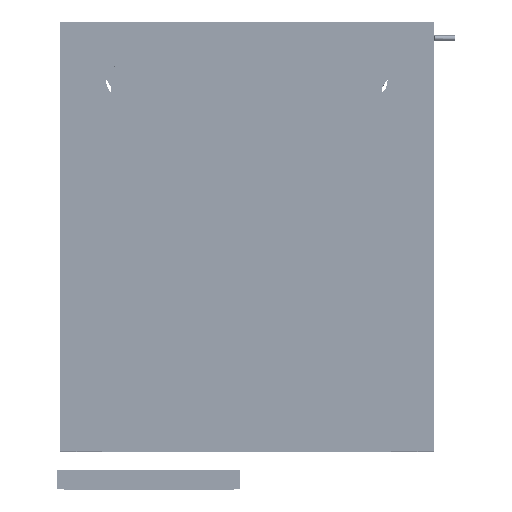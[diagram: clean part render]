
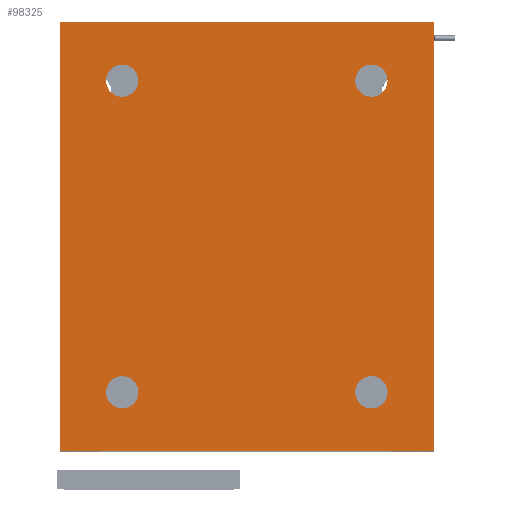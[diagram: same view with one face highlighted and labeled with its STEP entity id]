
A CAD part, top view. The second image highlights one B-rep face of the part: STEP entity #98325.
In plain terms, the highlighted planar face has unit normal (0, 0, 1).
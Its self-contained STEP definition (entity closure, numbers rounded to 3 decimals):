
#98136 = VERTEX_POINT('',#98137);
#98137 = CARTESIAN_POINT('',(0.,0.,625.));
#98144 = PLANE('',#98145);
#98145 = AXIS2_PLACEMENT_3D('',#98146,#98147,#98148);
#98146 = CARTESIAN_POINT('',(0.,0.,623.));
#98147 = DIRECTION('',(1.,0.,-0.));
#98148 = DIRECTION('',(0.,0.,1.));
#98156 = PLANE('',#98157);
#98157 = AXIS2_PLACEMENT_3D('',#98158,#98159,#98160);
#98158 = CARTESIAN_POINT('',(0.,0.,623.));
#98159 = DIRECTION('',(-0.,1.,0.));
#98160 = DIRECTION('',(0.,0.,1.));
#98197 = VERTEX_POINT('',#98198);
#98198 = CARTESIAN_POINT('',(0.,585.,625.));
#98212 = PLANE('',#98213);
#98213 = AXIS2_PLACEMENT_3D('',#98214,#98215,#98216);
#98214 = CARTESIAN_POINT('',(0.,585.,623.));
#98215 = DIRECTION('',(-0.,1.,0.));
#98216 = DIRECTION('',(0.,0.,1.));
#98224 = EDGE_CURVE('',#98136,#98197,#98225,.T.);
#98225 = SURFACE_CURVE('',#98226,(#98230,#98237),.PCURVE_S1.);
#98226 = LINE('',#98227,#98228);
#98227 = CARTESIAN_POINT('',(0.,0.,625.));
#98228 = VECTOR('',#98229,1.);
#98229 = DIRECTION('',(-0.,1.,0.));
#98230 = PCURVE('',#98144,#98231);
#98231 = DEFINITIONAL_REPRESENTATION('',(#98232),#98236);
#98232 = LINE('',#98233,#98234);
#98233 = CARTESIAN_POINT('',(2.,0.));
#98234 = VECTOR('',#98235,1.);
#98235 = DIRECTION('',(0.,-1.));
#98236 = ( GEOMETRIC_REPRESENTATION_CONTEXT(2) 
PARAMETRIC_REPRESENTATION_CONTEXT() REPRESENTATION_CONTEXT('2D SPACE',''
  ) );
#98237 = PCURVE('',#98238,#98243);
#98238 = PLANE('',#98239);
#98239 = AXIS2_PLACEMENT_3D('',#98240,#98241,#98242);
#98240 = CARTESIAN_POINT('',(0.,0.,625.));
#98241 = DIRECTION('',(0.,0.,1.));
#98242 = DIRECTION('',(1.,0.,-0.));
#98243 = DEFINITIONAL_REPRESENTATION('',(#98244),#98248);
#98244 = LINE('',#98245,#98246);
#98245 = CARTESIAN_POINT('',(0.,0.));
#98246 = VECTOR('',#98247,1.);
#98247 = DIRECTION('',(0.,1.));
#98248 = ( GEOMETRIC_REPRESENTATION_CONTEXT(2) 
PARAMETRIC_REPRESENTATION_CONTEXT() REPRESENTATION_CONTEXT('2D SPACE',''
  ) );
#98277 = EDGE_CURVE('',#98136,#98278,#98280,.T.);
#98278 = VERTEX_POINT('',#98279);
#98279 = CARTESIAN_POINT('',(510.,0.,625.));
#98280 = SURFACE_CURVE('',#98281,(#98285,#98292),.PCURVE_S1.);
#98281 = LINE('',#98282,#98283);
#98282 = CARTESIAN_POINT('',(0.,0.,625.));
#98283 = VECTOR('',#98284,1.);
#98284 = DIRECTION('',(1.,0.,-0.));
#98285 = PCURVE('',#98156,#98286);
#98286 = DEFINITIONAL_REPRESENTATION('',(#98287),#98291);
#98287 = LINE('',#98288,#98289);
#98288 = CARTESIAN_POINT('',(2.,0.));
#98289 = VECTOR('',#98290,1.);
#98290 = DIRECTION('',(0.,1.));
#98291 = ( GEOMETRIC_REPRESENTATION_CONTEXT(2) 
PARAMETRIC_REPRESENTATION_CONTEXT() REPRESENTATION_CONTEXT('2D SPACE',''
  ) );
#98292 = PCURVE('',#98238,#98293);
#98293 = DEFINITIONAL_REPRESENTATION('',(#98294),#98298);
#98294 = LINE('',#98295,#98296);
#98295 = CARTESIAN_POINT('',(0.,0.));
#98296 = VECTOR('',#98297,1.);
#98297 = DIRECTION('',(1.,0.));
#98298 = ( GEOMETRIC_REPRESENTATION_CONTEXT(2) 
PARAMETRIC_REPRESENTATION_CONTEXT() REPRESENTATION_CONTEXT('2D SPACE',''
  ) );
#98314 = PLANE('',#98315);
#98315 = AXIS2_PLACEMENT_3D('',#98316,#98317,#98318);
#98316 = CARTESIAN_POINT('',(510.,0.,623.));
#98317 = DIRECTION('',(1.,0.,-0.));
#98318 = DIRECTION('',(0.,0.,1.));
#98325 = ADVANCED_FACE('',(#98326,#98374,#98405,#98436,#98467),#98238,
  .T.);
#98326 = FACE_BOUND('',#98327,.T.);
#98327 = EDGE_LOOP('',(#98328,#98329,#98330,#98353));
#98328 = ORIENTED_EDGE('',*,*,#98224,.F.);
#98329 = ORIENTED_EDGE('',*,*,#98277,.T.);
#98330 = ORIENTED_EDGE('',*,*,#98331,.T.);
#98331 = EDGE_CURVE('',#98278,#98332,#98334,.T.);
#98332 = VERTEX_POINT('',#98333);
#98333 = CARTESIAN_POINT('',(510.,585.,625.));
#98334 = SURFACE_CURVE('',#98335,(#98339,#98346),.PCURVE_S1.);
#98335 = LINE('',#98336,#98337);
#98336 = CARTESIAN_POINT('',(510.,0.,625.));
#98337 = VECTOR('',#98338,1.);
#98338 = DIRECTION('',(-0.,1.,0.));
#98339 = PCURVE('',#98238,#98340);
#98340 = DEFINITIONAL_REPRESENTATION('',(#98341),#98345);
#98341 = LINE('',#98342,#98343);
#98342 = CARTESIAN_POINT('',(510.,0.));
#98343 = VECTOR('',#98344,1.);
#98344 = DIRECTION('',(0.,1.));
#98345 = ( GEOMETRIC_REPRESENTATION_CONTEXT(2) 
PARAMETRIC_REPRESENTATION_CONTEXT() REPRESENTATION_CONTEXT('2D SPACE',''
  ) );
#98346 = PCURVE('',#98314,#98347);
#98347 = DEFINITIONAL_REPRESENTATION('',(#98348),#98352);
#98348 = LINE('',#98349,#98350);
#98349 = CARTESIAN_POINT('',(2.,0.));
#98350 = VECTOR('',#98351,1.);
#98351 = DIRECTION('',(0.,-1.));
#98352 = ( GEOMETRIC_REPRESENTATION_CONTEXT(2) 
PARAMETRIC_REPRESENTATION_CONTEXT() REPRESENTATION_CONTEXT('2D SPACE',''
  ) );
#98353 = ORIENTED_EDGE('',*,*,#98354,.F.);
#98354 = EDGE_CURVE('',#98197,#98332,#98355,.T.);
#98355 = SURFACE_CURVE('',#98356,(#98360,#98367),.PCURVE_S1.);
#98356 = LINE('',#98357,#98358);
#98357 = CARTESIAN_POINT('',(0.,585.,625.));
#98358 = VECTOR('',#98359,1.);
#98359 = DIRECTION('',(1.,0.,-0.));
#98360 = PCURVE('',#98238,#98361);
#98361 = DEFINITIONAL_REPRESENTATION('',(#98362),#98366);
#98362 = LINE('',#98363,#98364);
#98363 = CARTESIAN_POINT('',(0.,585.));
#98364 = VECTOR('',#98365,1.);
#98365 = DIRECTION('',(1.,0.));
#98366 = ( GEOMETRIC_REPRESENTATION_CONTEXT(2) 
PARAMETRIC_REPRESENTATION_CONTEXT() REPRESENTATION_CONTEXT('2D SPACE',''
  ) );
#98367 = PCURVE('',#98212,#98368);
#98368 = DEFINITIONAL_REPRESENTATION('',(#98369),#98373);
#98369 = LINE('',#98370,#98371);
#98370 = CARTESIAN_POINT('',(2.,0.));
#98371 = VECTOR('',#98372,1.);
#98372 = DIRECTION('',(0.,1.));
#98373 = ( GEOMETRIC_REPRESENTATION_CONTEXT(2) 
PARAMETRIC_REPRESENTATION_CONTEXT() REPRESENTATION_CONTEXT('2D SPACE',''
  ) );
#98374 = FACE_BOUND('',#98375,.T.);
#98375 = EDGE_LOOP('',(#98376));
#98376 = ORIENTED_EDGE('',*,*,#98377,.F.);
#98377 = EDGE_CURVE('',#98378,#98378,#98380,.T.);
#98378 = VERTEX_POINT('',#98379);
#98379 = CARTESIAN_POINT('',(107.,80.,625.));
#98380 = SURFACE_CURVE('',#98381,(#98386,#98393),.PCURVE_S1.);
#98381 = CIRCLE('',#98382,22.);
#98382 = AXIS2_PLACEMENT_3D('',#98383,#98384,#98385);
#98383 = CARTESIAN_POINT('',(85.,80.,625.));
#98384 = DIRECTION('',(0.,0.,1.));
#98385 = DIRECTION('',(1.,0.,-0.));
#98386 = PCURVE('',#98238,#98387);
#98387 = DEFINITIONAL_REPRESENTATION('',(#98388),#98392);
#98388 = CIRCLE('',#98389,22.);
#98389 = AXIS2_PLACEMENT_2D('',#98390,#98391);
#98390 = CARTESIAN_POINT('',(85.,80.));
#98391 = DIRECTION('',(1.,0.));
#98392 = ( GEOMETRIC_REPRESENTATION_CONTEXT(2) 
PARAMETRIC_REPRESENTATION_CONTEXT() REPRESENTATION_CONTEXT('2D SPACE',''
  ) );
#98393 = PCURVE('',#98394,#98399);
#98394 = CYLINDRICAL_SURFACE('',#98395,22.);
#98395 = AXIS2_PLACEMENT_3D('',#98396,#98397,#98398);
#98396 = CARTESIAN_POINT('',(85.,80.,622.));
#98397 = DIRECTION('',(0.,0.,1.));
#98398 = DIRECTION('',(1.,0.,-0.));
#98399 = DEFINITIONAL_REPRESENTATION('',(#98400),#98404);
#98400 = LINE('',#98401,#98402);
#98401 = CARTESIAN_POINT('',(0.,3.));
#98402 = VECTOR('',#98403,1.);
#98403 = DIRECTION('',(1.,0.));
#98404 = ( GEOMETRIC_REPRESENTATION_CONTEXT(2) 
PARAMETRIC_REPRESENTATION_CONTEXT() REPRESENTATION_CONTEXT('2D SPACE',''
  ) );
#98405 = FACE_BOUND('',#98406,.T.);
#98406 = EDGE_LOOP('',(#98407));
#98407 = ORIENTED_EDGE('',*,*,#98408,.F.);
#98408 = EDGE_CURVE('',#98409,#98409,#98411,.T.);
#98409 = VERTEX_POINT('',#98410);
#98410 = CARTESIAN_POINT('',(447.,80.,625.));
#98411 = SURFACE_CURVE('',#98412,(#98417,#98424),.PCURVE_S1.);
#98412 = CIRCLE('',#98413,22.);
#98413 = AXIS2_PLACEMENT_3D('',#98414,#98415,#98416);
#98414 = CARTESIAN_POINT('',(425.,80.,625.));
#98415 = DIRECTION('',(0.,0.,1.));
#98416 = DIRECTION('',(1.,0.,-0.));
#98417 = PCURVE('',#98238,#98418);
#98418 = DEFINITIONAL_REPRESENTATION('',(#98419),#98423);
#98419 = CIRCLE('',#98420,22.);
#98420 = AXIS2_PLACEMENT_2D('',#98421,#98422);
#98421 = CARTESIAN_POINT('',(425.,80.));
#98422 = DIRECTION('',(1.,0.));
#98423 = ( GEOMETRIC_REPRESENTATION_CONTEXT(2) 
PARAMETRIC_REPRESENTATION_CONTEXT() REPRESENTATION_CONTEXT('2D SPACE',''
  ) );
#98424 = PCURVE('',#98425,#98430);
#98425 = CYLINDRICAL_SURFACE('',#98426,22.);
#98426 = AXIS2_PLACEMENT_3D('',#98427,#98428,#98429);
#98427 = CARTESIAN_POINT('',(425.,80.,622.));
#98428 = DIRECTION('',(0.,0.,1.));
#98429 = DIRECTION('',(1.,0.,-0.));
#98430 = DEFINITIONAL_REPRESENTATION('',(#98431),#98435);
#98431 = LINE('',#98432,#98433);
#98432 = CARTESIAN_POINT('',(0.,3.));
#98433 = VECTOR('',#98434,1.);
#98434 = DIRECTION('',(1.,0.));
#98435 = ( GEOMETRIC_REPRESENTATION_CONTEXT(2) 
PARAMETRIC_REPRESENTATION_CONTEXT() REPRESENTATION_CONTEXT('2D SPACE',''
  ) );
#98436 = FACE_BOUND('',#98437,.T.);
#98437 = EDGE_LOOP('',(#98438));
#98438 = ORIENTED_EDGE('',*,*,#98439,.F.);
#98439 = EDGE_CURVE('',#98440,#98440,#98442,.T.);
#98440 = VERTEX_POINT('',#98441);
#98441 = CARTESIAN_POINT('',(107.,505.,625.));
#98442 = SURFACE_CURVE('',#98443,(#98448,#98455),.PCURVE_S1.);
#98443 = CIRCLE('',#98444,22.);
#98444 = AXIS2_PLACEMENT_3D('',#98445,#98446,#98447);
#98445 = CARTESIAN_POINT('',(85.,505.,625.));
#98446 = DIRECTION('',(0.,0.,1.));
#98447 = DIRECTION('',(1.,0.,-0.));
#98448 = PCURVE('',#98238,#98449);
#98449 = DEFINITIONAL_REPRESENTATION('',(#98450),#98454);
#98450 = CIRCLE('',#98451,22.);
#98451 = AXIS2_PLACEMENT_2D('',#98452,#98453);
#98452 = CARTESIAN_POINT('',(85.,505.));
#98453 = DIRECTION('',(1.,0.));
#98454 = ( GEOMETRIC_REPRESENTATION_CONTEXT(2) 
PARAMETRIC_REPRESENTATION_CONTEXT() REPRESENTATION_CONTEXT('2D SPACE',''
  ) );
#98455 = PCURVE('',#98456,#98461);
#98456 = CYLINDRICAL_SURFACE('',#98457,22.);
#98457 = AXIS2_PLACEMENT_3D('',#98458,#98459,#98460);
#98458 = CARTESIAN_POINT('',(85.,505.,622.));
#98459 = DIRECTION('',(0.,0.,1.));
#98460 = DIRECTION('',(1.,0.,-0.));
#98461 = DEFINITIONAL_REPRESENTATION('',(#98462),#98466);
#98462 = LINE('',#98463,#98464);
#98463 = CARTESIAN_POINT('',(0.,3.));
#98464 = VECTOR('',#98465,1.);
#98465 = DIRECTION('',(1.,0.));
#98466 = ( GEOMETRIC_REPRESENTATION_CONTEXT(2) 
PARAMETRIC_REPRESENTATION_CONTEXT() REPRESENTATION_CONTEXT('2D SPACE',''
  ) );
#98467 = FACE_BOUND('',#98468,.T.);
#98468 = EDGE_LOOP('',(#98469));
#98469 = ORIENTED_EDGE('',*,*,#98470,.F.);
#98470 = EDGE_CURVE('',#98471,#98471,#98473,.T.);
#98471 = VERTEX_POINT('',#98472);
#98472 = CARTESIAN_POINT('',(447.,505.,625.));
#98473 = SURFACE_CURVE('',#98474,(#98479,#98486),.PCURVE_S1.);
#98474 = CIRCLE('',#98475,22.);
#98475 = AXIS2_PLACEMENT_3D('',#98476,#98477,#98478);
#98476 = CARTESIAN_POINT('',(425.,505.,625.));
#98477 = DIRECTION('',(0.,0.,1.));
#98478 = DIRECTION('',(1.,0.,-0.));
#98479 = PCURVE('',#98238,#98480);
#98480 = DEFINITIONAL_REPRESENTATION('',(#98481),#98485);
#98481 = CIRCLE('',#98482,22.);
#98482 = AXIS2_PLACEMENT_2D('',#98483,#98484);
#98483 = CARTESIAN_POINT('',(425.,505.));
#98484 = DIRECTION('',(1.,0.));
#98485 = ( GEOMETRIC_REPRESENTATION_CONTEXT(2) 
PARAMETRIC_REPRESENTATION_CONTEXT() REPRESENTATION_CONTEXT('2D SPACE',''
  ) );
#98486 = PCURVE('',#98487,#98492);
#98487 = CYLINDRICAL_SURFACE('',#98488,22.);
#98488 = AXIS2_PLACEMENT_3D('',#98489,#98490,#98491);
#98489 = CARTESIAN_POINT('',(425.,505.,622.));
#98490 = DIRECTION('',(0.,0.,1.));
#98491 = DIRECTION('',(1.,0.,-0.));
#98492 = DEFINITIONAL_REPRESENTATION('',(#98493),#98497);
#98493 = LINE('',#98494,#98495);
#98494 = CARTESIAN_POINT('',(0.,3.));
#98495 = VECTOR('',#98496,1.);
#98496 = DIRECTION('',(1.,0.));
#98497 = ( GEOMETRIC_REPRESENTATION_CONTEXT(2) 
PARAMETRIC_REPRESENTATION_CONTEXT() REPRESENTATION_CONTEXT('2D SPACE',''
  ) );
